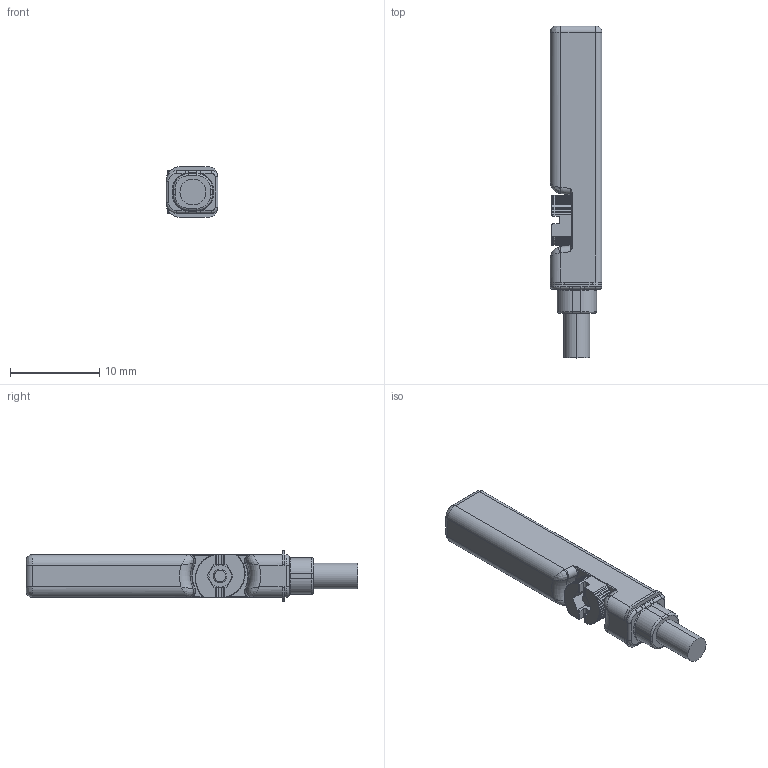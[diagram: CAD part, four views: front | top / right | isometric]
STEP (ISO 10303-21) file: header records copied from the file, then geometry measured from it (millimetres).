
FILE_DESCRIPTION((''),'2;1');
FILE_NAME('R412027171','2020-12-16T17:56:08',('PDH2HC'),(''),'CREO PARAMETRIC BY PTC INC, 2020044','CREO PARAMETRIC BY PTC INC, 2020044','');
FILE_SCHEMA(('AUTOMOTIVE_DESIGN { 1 0 10303 214 1 1 1 1 }'));
Length unit declared in the file: millimetre
Products named in the file (1): R412027171
Bounding box: 5.8 x 37.2 x 5.7 mm (x, y, z)
Volume: 837.7 mm3; surface area: 770 mm2
Topology: 1 solids, 1 shells, 226 faces, 674 edges, 450 vertices
Faces by surface type: cylinder 132, plane 50, bspline 22, torus 18, sphere 2, cone 2
Entity records: 9222 total; most frequent: CARTESIAN_POINT 2808, DIRECTION 1424, ORIENTED_EDGE 1344, EDGE_CURVE 672, AXIS2_PLACEMENT_3D 590, VERTEX_POINT 450, CIRCLE 376, VECTOR 244
